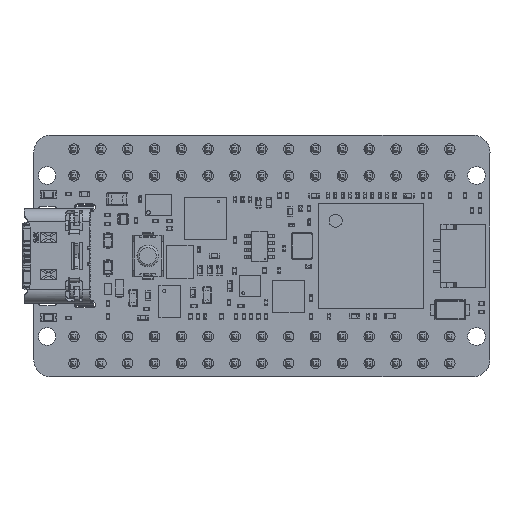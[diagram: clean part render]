
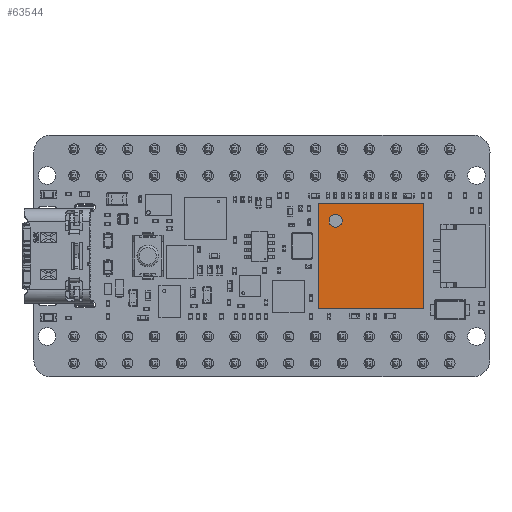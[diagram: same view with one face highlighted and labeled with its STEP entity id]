
A CAD part, top view. The second image highlights one B-rep face of the part: STEP entity #63544.
In plain terms, the highlighted planar face has unit normal (0, 0, 1).
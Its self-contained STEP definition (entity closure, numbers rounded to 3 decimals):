
#63480 = VERTEX_POINT('',#63481);
#63481 = CARTESIAN_POINT('',(0.,0.,1.2));
#63496 = VERTEX_POINT('',#63497);
#63497 = CARTESIAN_POINT('',(0.,10.,1.2));
#63503 = EDGE_CURVE('',#63480,#63496,#63504,.T.);
#63504 = LINE('',#63505,#63506);
#63505 = CARTESIAN_POINT('',(0.,0.,1.2));
#63506 = VECTOR('',#63507,1.);
#63507 = DIRECTION('',(-0.,1.,0.));
#63526 = EDGE_CURVE('',#63480,#63527,#63529,.T.);
#63527 = VERTEX_POINT('',#63528);
#63528 = CARTESIAN_POINT('',(10.,0.,1.2));
#63529 = LINE('',#63530,#63531);
#63530 = CARTESIAN_POINT('',(0.,0.,1.2));
#63531 = VECTOR('',#63532,1.);
#63532 = DIRECTION('',(1.,0.,-0.));
#63544 = ADVANCED_FACE('',(#63545,#63563),#63574,.T.);
#63545 = FACE_BOUND('',#63546,.T.);
#63546 = EDGE_LOOP('',(#63547,#63548,#63549,#63557));
#63547 = ORIENTED_EDGE('',*,*,#63503,.F.);
#63548 = ORIENTED_EDGE('',*,*,#63526,.T.);
#63549 = ORIENTED_EDGE('',*,*,#63550,.T.);
#63550 = EDGE_CURVE('',#63527,#63551,#63553,.T.);
#63551 = VERTEX_POINT('',#63552);
#63552 = CARTESIAN_POINT('',(10.,10.,1.2));
#63553 = LINE('',#63554,#63555);
#63554 = CARTESIAN_POINT('',(10.,0.,1.2));
#63555 = VECTOR('',#63556,1.);
#63556 = DIRECTION('',(-0.,1.,0.));
#63557 = ORIENTED_EDGE('',*,*,#63558,.F.);
#63558 = EDGE_CURVE('',#63496,#63551,#63559,.T.);
#63559 = LINE('',#63560,#63561);
#63560 = CARTESIAN_POINT('',(0.,10.,1.2));
#63561 = VECTOR('',#63562,1.);
#63562 = DIRECTION('',(1.,0.,-0.));
#63563 = FACE_BOUND('',#63564,.T.);
#63564 = EDGE_LOOP('',(#63565));
#63565 = ORIENTED_EDGE('',*,*,#63566,.F.);
#63566 = EDGE_CURVE('',#63567,#63567,#63569,.T.);
#63567 = VERTEX_POINT('',#63568);
#63568 = CARTESIAN_POINT('',(2.292,8.333,1.2));
#63569 = CIRCLE('',#63570,0.625);
#63570 = AXIS2_PLACEMENT_3D('',#63571,#63572,#63573);
#63571 = CARTESIAN_POINT('',(1.667,8.333,1.2));
#63572 = DIRECTION('',(0.,0.,1.));
#63573 = DIRECTION('',(1.,0.,-0.));
#63574 = PLANE('',#63575);
#63575 = AXIS2_PLACEMENT_3D('',#63576,#63577,#63578);
#63576 = CARTESIAN_POINT('',(0.,0.,1.2));
#63577 = DIRECTION('',(0.,0.,1.));
#63578 = DIRECTION('',(1.,0.,-0.));
